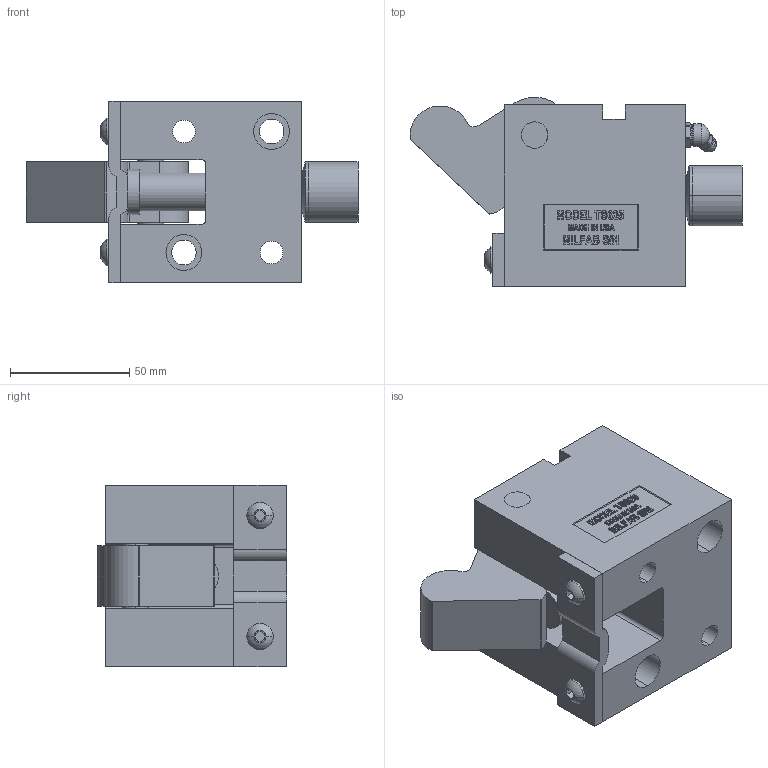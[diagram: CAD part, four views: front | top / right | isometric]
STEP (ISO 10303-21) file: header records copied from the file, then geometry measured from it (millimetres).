
FILE_DESCRIPTION (( 'STEP AP214' ), '1' );
FILE_NAME ('TS62545-O.STEP', '2014-01-05T21:13:44', ( 'user' ), ( '' ), 'SwSTEP 2.0', 'SolidWorks 2009', '' );
FILE_SCHEMA (( 'AUTOMOTIVE_DESIGN' ));
Length unit declared in the file: inch
Products named in the file (11): S625-PUNCH; TS625-BODY; TS62545-O; 625 PIVOT PIN; 625-WASHER; I-625-POINT; GREASE ZERK; 1-4 SCREW; 625-I-STRAP; 625-OFFSET TRIGGER; 625 STRIPPER OPEN
Assembly tree (11 placements, depth 2):
  TS62545-O
    625-OFFSET TRIGGER
    1-4 SCREW  x2
    625 STRIPPER OPEN
    625-I-STRAP
    I-625-POINT
    S625-PUNCH
    625 PIVOT PIN
    625-WASHER
    GREASE ZERK
    TS625-BODY
Bounding box: 139.36 x 79.37 x 76.2 mm (x, y, z)
Volume: 409935.6 mm3; surface area: 79882.4 mm2
Topology: 11 solids, 11 shells, 582 faces, 1505 edges, 988 vertices
Faces by surface type: plane 334, bspline 104, cylinder 90, cone 30, torus 20, sphere 4
Entity records: 23464 total; most frequent: CARTESIAN_POINT 9828, ORIENTED_EDGE 2922, DIRECTION 2335, EDGE_CURVE 1461, VERTEX_POINT 962, VECTOR 955, LINE 955, AXIS2_PLACEMENT_3D 690
